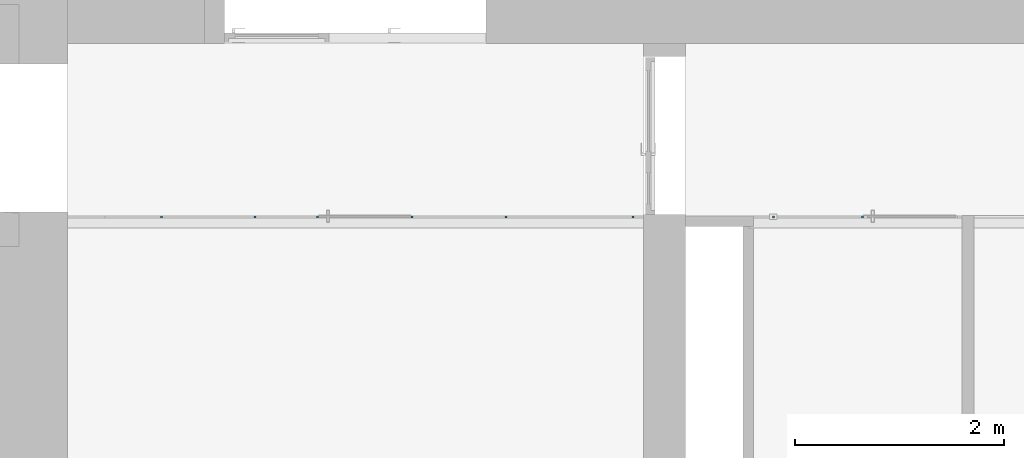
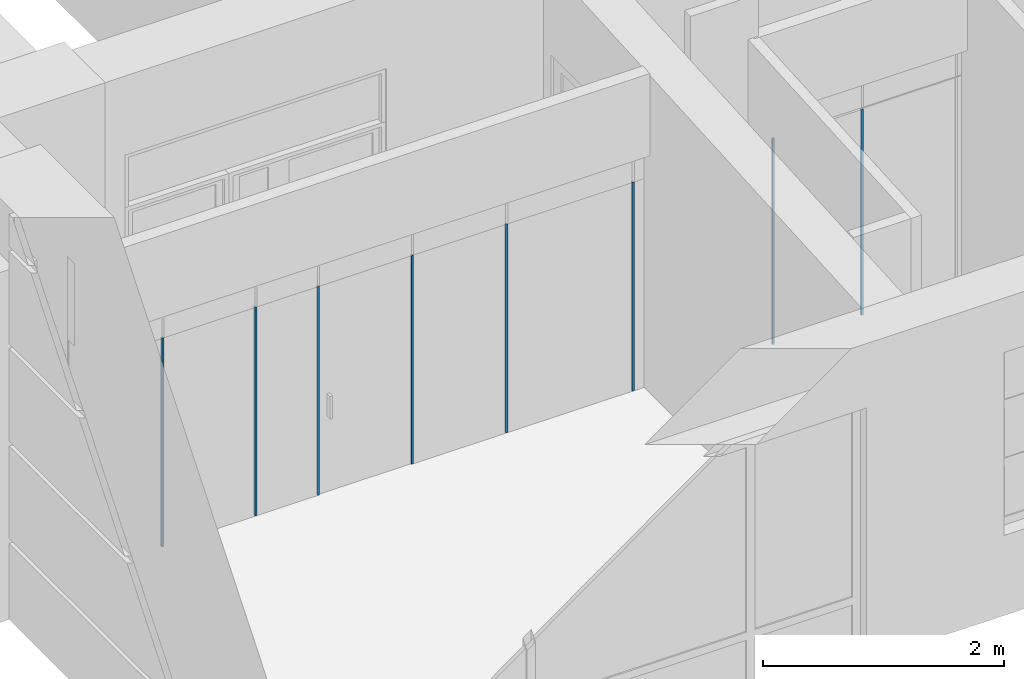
# One storey, part 1 of 46: 8 members, 2 elements without a shape of their own.
"""IFC2X3 building model written with IfcOpenShell, lengths in millimetres."""

import ifcopenshell
import ifcopenshell.guid

model = None  # the IFC model being written
_history = None  # IfcOwnerHistory: only IFC2X3 demands one
_inside = {}  # id of a spatial element -> (the spatial element, [elements in it])
_under = {}  # id of a project, library or spatial element -> (it, [spatial elements below it])
_declared = {}  # id of a project -> (the project, [libraries it declares])
_typed = {}  # id of a type object -> (the type object, [elements of that type])
_made_of = {}  # id of a material, layer set ... -> (it, [elements and type objects made of it])


def new_model(schema):
    """Start an empty IFC model of exactly this schema.

    Asked for "IFC4X3", IfcOpenShell would pick the latest addendum, in which some entities
    have other attributes; the version numbers below select the first issue.
    IFC2X3 requires an IfcOwnerHistory on every rooted entity: one is made here for all.
    """
    global model, _history
    if schema == "IFC4X3":
        model = ifcopenshell.file(schema_version=(4, 3, 0, 0))
    else:
        model = ifcopenshell.file(schema=schema)
    _inside.clear()
    _under.clear()
    _declared.clear()
    _typed.clear()
    _made_of.clear()
    _history = None
    if model.schema == "IFC2X3":
        org = make("IfcOrganization", Name="unknown")
        user = make(
            "IfcPersonAndOrganization",
            ThePerson=make("IfcPerson", FamilyName="unknown"),
            TheOrganization=org,
        )
        app = make(
            "IfcApplication",
            ApplicationDeveloper=org,
            Version="unknown",
            ApplicationFullName="unknown",
            ApplicationIdentifier="unknown",
        )
        _history = make(
            "IfcOwnerHistory",
            OwningUser=user,
            OwningApplication=app,
            ChangeAction="ADDED",
            CreationDate=0,
        )
    return model


def make(cls, **values):
    """One entity of the class cls with the attributes given. An attribute that is None is left unset."""
    return model.create_entity(
        cls, **{name: value for name, value in values.items() if value is not None}
    )


def entity(cls, *values):
    """Any entity or typed value of the class cls, its attributes in the order of the schema. None: left unset."""
    e = model.create_entity(cls)
    for i, value in enumerate(values):
        if value is not None:
            e[i] = value
    return e


def rooted(cls, **values):
    """An entity with a GlobalId (a new one), such as an element, a storey or a relation."""
    return make(cls, GlobalId=ifcopenshell.guid.new(), OwnerHistory=_history, **values)


def si_unit(unit_type, name, prefix=None):
    """IfcSIUnit, for example si_unit("LENGTHUNIT", "METRE", prefix="MILLI")."""
    return make("IfcSIUnit", UnitType=unit_type, Prefix=prefix, Name=name)


def converted_unit(unit_type, name, factor, base, dimensions=None, offset=None):
    """IfcConversionBasedUnit, such as the inch: factor (a typed value) times the base unit."""
    return make(
        "IfcConversionBasedUnit"
        if offset is None
        else "IfcConversionBasedUnitWithOffset",
        ConversionOffset=offset,
        Dimensions=None
        if dimensions is None
        else entity("IfcDimensionalExponents", *dimensions),
        UnitType=unit_type,
        Name=name,
        ConversionFactor=make(
            "IfcMeasureWithUnit", ValueComponent=factor, UnitComponent=base
        ),
    )


def derived_unit(unit_type, elements):
    """IfcDerivedUnit: a product of units, each with its exponent."""
    return make(
        "IfcDerivedUnit",
        Elements=[
            make("IfcDerivedUnitElement", Unit=unit, Exponent=power)
            for unit, power in elements
        ],
        UnitType=unit_type,
    )


def assignment(units):
    """IfcUnitAssignment: the units of a project."""
    return None if units is None else make("IfcUnitAssignment", Units=units)


def point(xyz):
    """IfcCartesianPoint."""
    return None if xyz is None else make("IfcCartesianPoint", Coordinates=xyz)


def direction(xyz):
    """IfcDirection."""
    return None if xyz is None else make("IfcDirection", DirectionRatios=xyz)


def frame(location, z_axis=None, x_axis=None):
    """IfcAxis2Placement3D, a coordinate frame: its origin and axes. An axis left out is left unset."""
    return make(
        "IfcAxis2Placement3D",
        Location=point(location),
        Axis=direction(z_axis),
        RefDirection=direction(x_axis),
    )


def frame_2d(location, x_axis=None):
    """IfcAxis2Placement2D, a coordinate frame in the plane: its origin and x axis."""
    return make(
        "IfcAxis2Placement2D", Location=point(location), RefDirection=direction(x_axis)
    )


def origin():
    """The frame at (0, 0, 0) with its axes left unset."""
    return frame((0.0, 0.0, 0.0))


def origin_2d_with_axis():
    """The frame at (0, 0) in the plane with the x axis (1, 0) written out."""
    return frame_2d((0.0, 0.0), x_axis=(1.0, 0.0))


def place(relative_to, where):
    """IfcLocalPlacement: puts the frame where relative to a parent placement (None: the world)."""
    return make(
        "IfcLocalPlacement", PlacementRelTo=relative_to, RelativePlacement=where
    )


def context(
    kind, dimensions, precision=None, world=None, true_north=None, identifier=None
):
    """IfcGeometricRepresentationContext, for example the 3D "Model" context."""
    return make(
        "IfcGeometricRepresentationContext",
        ContextIdentifier=identifier,
        ContextType=kind,
        CoordinateSpaceDimension=dimensions,
        Precision=precision,
        WorldCoordinateSystem=world,
        TrueNorth=true_north,
    )


def subcontext(parent, identifier, kind, view, scale=None):
    """IfcGeometricRepresentationSubContext, for example "Body" below "Model"."""
    return make(
        "IfcGeometricRepresentationSubContext",
        ContextIdentifier=identifier,
        ContextType=kind,
        ParentContext=parent,
        TargetScale=scale,
        TargetView=view,
    )


def project(units=None, contexts=None):
    """IfcProject with its units and contexts."""
    return rooted(
        "IfcProject",
        Name="project",
        RepresentationContexts=contexts,
        UnitsInContext=assignment(units),
    )


def spatial(cls, under=None, at=None, **own):
    """A site, building, storey or space (cls), placed at a placement, below another one or the project."""
    s = rooted(cls, ObjectPlacement=at, **own)
    if under is not None:
        _under.setdefault(under.id(), (under, []))[1].append(s)
    return s


def profile(cls, at=None, kind="AREA", **sizes):
    """A parametric profile (cls). Its sizes go by their IFC names, for example OverallWidth=200.0."""
    return make(cls, ProfileType=kind, Position=at, **sizes)


def rectangle(**sizes):
    """IfcRectangleProfileDef."""
    return profile("IfcRectangleProfileDef", **sizes)


def extrude(swept, where, along, depth):
    """IfcExtrudedAreaSolid: the profile swept, set in the frame where, extruded along a direction by depth."""
    return make(
        "IfcExtrudedAreaSolid",
        SweptArea=swept,
        Position=where,
        ExtrudedDirection=direction(along),
        Depth=depth,
    )


def shape(context_of_items, identifier, shape_type, items):
    """IfcShapeRepresentation: the items that make up one representation, for example the "Body"."""
    return make(
        "IfcShapeRepresentation",
        ContextOfItems=context_of_items,
        RepresentationIdentifier=identifier,
        RepresentationType=shape_type,
        Items=items,
    )


def source(mapping_origin, context_of_items, identifier, shape_type, items):
    """IfcRepresentationMap: a shape defined once, which mapped items show again and again."""
    return make(
        "IfcRepresentationMap",
        MappingOrigin=mapping_origin,
        MappedRepresentation=shape(context_of_items, identifier, shape_type, items),
    )


def transform(
    local_origin,
    x_axis=None,
    y_axis=None,
    z_axis=None,
    scale=None,
    scale2=None,
    scale3=None,
    uniform=True,
):
    """IfcCartesianTransformationOperator3D, or its non-uniform kind. x_axis, y_axis, z_axis: its Axis1, 2, 3."""
    if uniform:
        return make(
            "IfcCartesianTransformationOperator3D",
            Axis1=direction(x_axis),
            Axis2=direction(y_axis),
            LocalOrigin=point(local_origin),
            Scale=scale,
            Axis3=direction(z_axis),
        )
    return make(
        "IfcCartesianTransformationOperator3DnonUniform",
        Axis1=direction(x_axis),
        Axis2=direction(y_axis),
        LocalOrigin=point(local_origin),
        Scale=scale,
        Axis3=direction(z_axis),
        Scale2=scale2,
        Scale3=scale3,
    )


def mapped(mapping_source, mapping_target):
    """IfcMappedItem: shows the shape of a source again, moved by a transform."""
    return make(
        "IfcMappedItem", MappingSource=mapping_source, MappingTarget=mapping_target
    )


def material(Name=None, Category=None):
    """IfcMaterial."""
    return make("IfcMaterial", Name=Name, Category=Category)


def made_of(thing, what):
    """Note that an element or type object is made of a material, layer set ...; save() writes the relation."""
    if what is not None:
        _made_of.setdefault(what.id(), (what, []))[1].append(thing)
    return thing


def type_object(cls, material=None, **own):
    """A type object (cls), such as IfcWallType, which elements share."""
    return made_of(rooted(cls, **own), material)


def type_shapes(of_type, sources):
    """Give a type object the sources (RepresentationMaps) that its elements show as mapped items."""
    of_type.RepresentationMaps = sources


def element(
    cls,
    number,
    at=None,
    inside=None,
    cuts=None,
    type_object=None,
    material=None,
    context=None,
    identifier="Body",
    shape_type=None,
    held_by="IfcProductDefinitionShape",
    body=None,
    shapes=None,
    **own,
):
    """One element of the class cls, such as IfcWall. Its Tag is "e" and its number.

    at: its placement. inside: the storey or other place that contains it. cuts: it is an
    opening in that element (IfcRelVoidsElement). A single representation is given by context,
    identifier, shape_type and body (its items); several are given by shapes. held_by: the class
    of the entity that holds the representations. save() writes the other relations.
    """
    e = rooted(cls, Tag="e%d" % number, ObjectPlacement=at, **own)
    if body is not None:
        shapes = [shape(context, identifier, shape_type, body)]
    if shapes is not None:
        e.Representation = make(held_by, Representations=shapes)
    if inside is not None:
        _inside.setdefault(inside.id(), (inside, []))[1].append(e)
    if cuts is not None:
        rooted(
            "IfcRelVoidsElement", RelatingBuildingElement=cuts, RelatedOpeningElement=e
        )
    if type_object is not None:
        _typed.setdefault(type_object.id(), (type_object, []))[1].append(e)
    return made_of(e, material)


def aggregate(whole, parts):
    """IfcRelAggregates: a whole, such as a stair, and the parts it consists of."""
    return rooted("IfcRelAggregates", RelatingObject=whole, RelatedObjects=parts)


def save(model, path):
    """Write the relations noted so far, then the file.

    IfcRelAggregates (storeys below a building ...), IfcRelContainedInSpatialStructure (elements
    in a storey), IfcRelDefinesByType, IfcRelAssociatesMaterial and IfcRelDeclares: one each for
    every whole, place, type object, material and project.
    """
    for whole, parts in _under.values():
        aggregate(whole, parts)
    for where, things in _inside.values():
        rooted(
            "IfcRelContainedInSpatialStructure",
            RelatedElements=things,
            RelatingStructure=where,
        )
    for kind, things in _typed.values():
        rooted("IfcRelDefinesByType", RelatedObjects=things, RelatingType=kind)
    for what, things in _made_of.values():
        rooted("IfcRelAssociatesMaterial", RelatedObjects=things, RelatingMaterial=what)
    for by, libraries in _declared.values():
        rooted("IfcRelDeclares", RelatingContext=by, RelatedDefinitions=libraries)
    model.write(path)


model = new_model("IFC2X3")

# Units and contexts
model_context = context("Model", 3, precision=0.01, world=origin(), true_north=direction((6.12303176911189e-17, 1.0)))
body_context = subcontext(model_context, "Body", "Model", "MODEL_VIEW")
ifc_project = project(units=[si_unit("LENGTHUNIT", "METRE", prefix="MILLI"), si_unit("AREAUNIT", "SQUARE_METRE"), si_unit("VOLUMEUNIT", "CUBIC_METRE"), converted_unit("PLANEANGLEUNIT", "DEGREE", entity("IfcRatioMeasure", 0.0174532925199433), si_unit("PLANEANGLEUNIT", "RADIAN"), dimensions=[0, 0, 0, 0, 0, 0, 0]), si_unit("MASSUNIT", "GRAM", prefix="KILO"), derived_unit("MASSDENSITYUNIT", [(si_unit("MASSUNIT", "GRAM", prefix="KILO"), 1), (si_unit("LENGTHUNIT", "METRE"), -3)]), si_unit("TIMEUNIT", "SECOND"), si_unit("FREQUENCYUNIT", "HERTZ"), si_unit("THERMODYNAMICTEMPERATUREUNIT", "DEGREE_CELSIUS"), derived_unit("THERMALTRANSMITTANCEUNIT", [(si_unit("MASSUNIT", "GRAM", prefix="KILO"), 1), (si_unit("THERMODYNAMICTEMPERATUREUNIT", "KELVIN"), -1), (si_unit("TIMEUNIT", "SECOND"), -3)]), derived_unit("VOLUMETRICFLOWRATEUNIT", [(si_unit("LENGTHUNIT", "METRE"), 3), (si_unit("TIMEUNIT", "SECOND"), -1)]), si_unit("ELECTRICCURRENTUNIT", "AMPERE"), si_unit("ELECTRICVOLTAGEUNIT", "VOLT"), si_unit("POWERUNIT", "WATT"), si_unit("FORCEUNIT", "NEWTON", prefix="KILO"), si_unit("ILLUMINANCEUNIT", "LUX"), si_unit("LUMINOUSFLUXUNIT", "LUMEN"), si_unit("LUMINOUSINTENSITYUNIT", "CANDELA"), derived_unit("USERDEFINED", [(si_unit("MASSUNIT", "GRAM", prefix="KILO"), -1), (si_unit("LENGTHUNIT", "METRE"), -2), (si_unit("TIMEUNIT", "SECOND"), 3), (si_unit("LUMINOUSFLUXUNIT", "LUMEN"), 1)]), derived_unit("LINEARVELOCITYUNIT", [(si_unit("LENGTHUNIT", "METRE"), 1), (si_unit("TIMEUNIT", "SECOND"), -1)]), si_unit("PRESSUREUNIT", "PASCAL"), derived_unit("USERDEFINED", [(si_unit("LENGTHUNIT", "METRE"), -2), (si_unit("MASSUNIT", "GRAM", prefix="KILO"), 1), (si_unit("TIMEUNIT", "SECOND"), -2)])], contexts=[model_context])

# Site, building, storey
site_placement = place(None, frame((-151.875543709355, 2715.0, 0.0)))
site = spatial("IfcSite", under=ifc_project, at=site_placement, Name="Surface", CompositionType="ELEMENT")
building_placement = place(site_placement, origin())
building = spatial("IfcBuilding", under=site, at=building_placement, CompositionType="ELEMENT")
storey_placement = place(building_placement, frame((0.0, 0.0, 10060.0)))
storey = spatial("IfcBuildingStorey", under=building, at=storey_placement, Name="4 korrus", CompositionType="ELEMENT", Elevation=10060.0000000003)

# Curtain wall, members
curtain_wall_type_1 = type_object("IfcCurtainWallType", Name="Curtain Wall:Klaassein KLS-07", PredefinedType="NOTDEFINED")
curtain_wall_1_placement = place(storey_placement, frame((0.0, 0.0, -10060.0)))
curtain_wall_1 = element("IfcCurtainWall", 1, at=curtain_wall_1_placement, inside=storey, type_object=curtain_wall_type_1, Name="Curtain Wall:Klaassein KLS-07", ObjectType="Curtain Wall:Klaassein KLS-07")
ifc_material = material(Name="__Uks_hele tamm")
member_type_1 = type_object("IfcMemberType", Name="20 x 20mm", PredefinedType="MEMBER")
shared_shape_1 = source(origin(), body_context, "Body", "SweptSolid", [
    extrude(rectangle(XDim=20.0, YDim=20.0, at=origin_2d_with_axis()), frame((0.0, 0.0, -2110.0), z_axis=(0.0, 0.0, 1.0), x_axis=(0.0, -1.0, 0.0)), (0.0, 0.0, 1.0), 2110.0),
])
type_shapes(member_type_1, [shared_shape_1])
member_1_placement = place(storey_placement, frame((1359.8755458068, 4355.0449339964, 0.0), z_axis=(0.0, 0.0, -1.0), x_axis=(1.0, 0.0, 0.0)))
member_1 = element("IfcMember", 2, at=member_1_placement, type_object=member_type_1, material=ifc_material, Name="Rectangular Mullion:20 x 20mm", ObjectType="20 x 20mm", context=body_context, shape_type="MappedRepresentation", body=[
    mapped(shared_shape_1, transform((0.0, 0.0, 0.0), scale=1.0)),
])
member_2_placement = place(storey_placement, frame((2249.87554580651, 4355.0449339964, 0.0), z_axis=(0.0, 0.0, -1.0), x_axis=(1.0, 0.0, 0.0)))
member_2 = element("IfcMember", 3, at=member_2_placement, type_object=member_type_1, material=ifc_material, Name="Rectangular Mullion:20 x 20mm", ObjectType="20 x 20mm", context=body_context, shape_type="MappedRepresentation", body=[
    mapped(shared_shape_1, transform((0.0, 0.0, 0.0), scale=1.0)),
])
member_3_placement = place(storey_placement, frame((2849.87554580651, 4355.0449339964, 0.0), z_axis=(0.0, 0.0, -1.0), x_axis=(1.0, 0.0, 0.0)))
member_3 = element("IfcMember", 4, at=member_3_placement, type_object=member_type_1, material=ifc_material, Name="Rectangular Mullion:20 x 20mm", ObjectType="20 x 20mm", context=body_context, shape_type="MappedRepresentation", body=[
    mapped(shared_shape_1, transform((0.0, 0.0, 0.0), scale=1.0)),
])
member_4_placement = place(storey_placement, frame((3749.87554580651, 4355.0449339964, 0.0), z_axis=(0.0, 0.0, -1.0), x_axis=(1.0, 0.0, 0.0)))
member_4 = element("IfcMember", 5, at=member_4_placement, type_object=member_type_1, material=ifc_material, Name="Rectangular Mullion:20 x 20mm", ObjectType="20 x 20mm", context=body_context, shape_type="MappedRepresentation", body=[
    mapped(shared_shape_1, transform((0.0, 0.0, 0.0), scale=1.0)),
])
member_5_placement = place(storey_placement, frame((4649.87554580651, 4355.04493399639, 0.0), z_axis=(0.0, 0.0, -1.0), x_axis=(1.0, 0.0, 0.0)))
member_5 = element("IfcMember", 6, at=member_5_placement, type_object=member_type_1, material=ifc_material, Name="Rectangular Mullion:20 x 20mm", ObjectType="20 x 20mm", context=body_context, shape_type="MappedRepresentation", body=[
    mapped(shared_shape_1, transform((0.0, 0.0, 0.0), scale=1.0)),
])
member_6_placement = place(storey_placement, frame((5859.8755458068, 4355.04493399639, 0.0), z_axis=(0.0, 0.0, -1.0), x_axis=(1.0, 0.0, 0.0)))
member_6 = element("IfcMember", 7, at=member_6_placement, type_object=member_type_1, material=ifc_material, Name="Rectangular Mullion:20 x 20mm", ObjectType="20 x 20mm", context=body_context, shape_type="MappedRepresentation", body=[
    mapped(shared_shape_1, transform((0.0, 0.0, 0.0), scale=1.0)),
])
aggregate(curtain_wall_1, [member_1, member_2, member_3, member_4, member_5, member_6])

curtain_wall_type_2 = type_object("IfcCurtainWallType", Name="Curtain Wall:Klaassein KLS-24", PredefinedType="NOTDEFINED")
curtain_wall_2_placement = place(storey_placement, frame((0.0, 0.0, -10060.0)))
curtain_wall_2 = element("IfcCurtainWall", 8, at=curtain_wall_2_placement, inside=storey, type_object=curtain_wall_type_2, Name="Curtain Wall:Klaassein KLS-24", ObjectType="Curtain Wall:Klaassein KLS-24")
member_type_2 = type_object("IfcMemberType", Name="20 x 20mm", PredefinedType="MEMBER")
shared_shape_2 = source(origin(), body_context, "Body", "SweptSolid", [
    extrude(rectangle(XDim=20.0, YDim=20.0, at=origin_2d_with_axis()), frame((0.0, 0.0, -2080.0), z_axis=(0.0, 0.0, 1.0), x_axis=(0.0, -1.0, 0.0)), (0.0, 0.0, 1.0), 2080.0),
])
type_shapes(member_type_2, [shared_shape_2])
member_7_placement = place(storey_placement, frame((8051.56472640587, 4355.0449339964, 0.0), z_axis=(0.0, 0.0, -1.0), x_axis=(-1.0, 0.0, 0.0)))
member_7 = element("IfcMember", 9, at=member_7_placement, type_object=member_type_2, material=ifc_material, Name="Rectangular Mullion:20 x 20mm", ObjectType="20 x 20mm", context=body_context, shape_type="MappedRepresentation", body=[
    mapped(shared_shape_2, transform((0.0, 0.0, 0.0), scale=1.0)),
])
member_type_3 = type_object("IfcMemberType", Name="20 x 20mm", PredefinedType="MEMBER")
shared_shape_3 = source(origin(), body_context, "Body", "SweptSolid", [
    extrude(rectangle(XDim=20.0, YDim=20.0, at=origin_2d_with_axis()), frame((0.0, 0.0, -2080.0), z_axis=(0.0, 0.0, 1.0), x_axis=(0.0, -1.0, 0.0)), (0.0, 0.0, 1.0), 2080.0),
])
type_shapes(member_type_3, [shared_shape_3])
member_8_placement = place(storey_placement, frame((7201.56472610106, 4355.04493399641, 0.0), z_axis=(0.0, 0.0, -1.0), x_axis=(-1.0, 0.0, 0.0)))
member_8 = element("IfcMember", 10, at=member_8_placement, type_object=member_type_3, material=ifc_material, Name="Rectangular Mullion:20 x 20mm", ObjectType="20 x 20mm", context=body_context, shape_type="MappedRepresentation", body=[
    mapped(shared_shape_3, transform((0.0, 0.0, 0.0), scale=1.0)),
])
aggregate(curtain_wall_2, [member_7, member_8])

save(model, "model.ifc")
